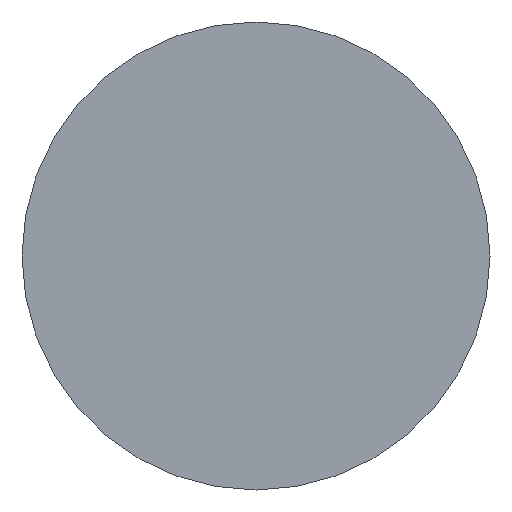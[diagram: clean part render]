
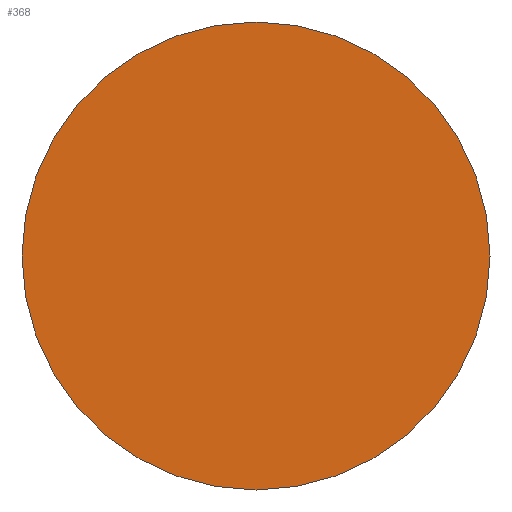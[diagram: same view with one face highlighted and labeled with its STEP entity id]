
A CAD part, front view. The second image highlights one B-rep face of the part: STEP entity #368.
In plain terms, the highlighted planar face has unit normal (0, -1, 0).
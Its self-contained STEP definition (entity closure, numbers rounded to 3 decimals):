
#321=CARTESIAN_POINT('',(0.,0.,0.));
#322=DIRECTION('',(0.,1.,0.));
#323=DIRECTION('',(1.,0.,0.));
#324=AXIS2_PLACEMENT_3D('',#321,#322,#323);
#326=CARTESIAN_POINT('',(0.,0.,0.));
#327=DIRECTION('',(0.,1.,0.));
#328=DIRECTION('',(-1.,0.,0.));
#329=AXIS2_PLACEMENT_3D('',#326,#327,#328);
#349=CARTESIAN_POINT('',(1.,0.,0.));
#350=CARTESIAN_POINT('',(-1.,0.,0.));
#351=VERTEX_POINT('',#349);
#352=VERTEX_POINT('',#350);
#357=CARTESIAN_POINT('',(0.,0.,0.));
#358=DIRECTION('',(0.,1.,0.));
#359=DIRECTION('',(1.,0.,0.));
#360=AXIS2_PLACEMENT_3D('',#357,#358,#359);
#361=PLANE('',#360);
#363=ORIENTED_EDGE('',*,*,#362,.T.);
#365=ORIENTED_EDGE('',*,*,#364,.T.);
#366=EDGE_LOOP('',(#363,#365));
#367=FACE_OUTER_BOUND('',#366,.F.);
#368=ADVANCED_FACE('',(#367),#361,.F.);
#325=CIRCLE('',#324,1.);
#330=CIRCLE('',#329,1.);
#362=EDGE_CURVE('',#351,#352,#325,.T.);
#364=EDGE_CURVE('',#352,#351,#330,.T.);
